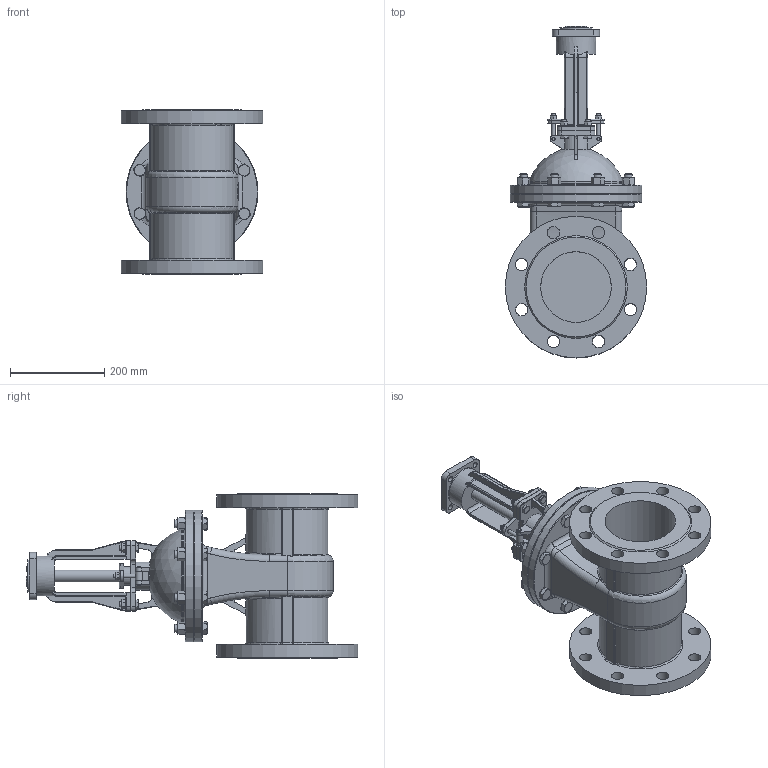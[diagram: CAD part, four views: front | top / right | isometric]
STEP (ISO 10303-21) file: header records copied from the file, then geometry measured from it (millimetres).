
FILE_DESCRIPTION(('STEP AP242'), '1');
FILE_NAME('GVWR2121M-2W-F-ÎÑÒ Çàäâèæêà êëèíîâàÿ ñ âûäâèæíûì øòîêîì Äó150 Ðó25', '2026-05-31T15:29:53', ('R2D2'), (''), 'C3D Converter', 'C3D Toolkit', '');
FILE_SCHEMA(('AP242_MANAGED_MODEL_BASED_3D_ENGINEERING_MIM_LF { 1 0 10303 442 1 1 4 }'));
Length unit declared in the file: millimetre
Products named in the file (1): GVWR2121M-2W-F-ОСТ
Bounding box: 300 x 704 x 350 mm (x, y, z)
Volume: 13739460.8 mm3; surface area: 1042863.9 mm2
Topology: 1 solids, 1 shells, 1284 faces, 3159 edges, 1943 vertices
Faces by surface type: plane 535, cone 260, cylinder 228, extrusion 108, bspline 77, torus 67, sphere 5, revolution 4
Full cylindrical faces by diameter (mm): 7 x4, 8 x4, 10 x8, 12 x4, 15 x2, 16 x20, 24 x4, 25 x2, 26 x16, 30 x1, 32 x1, 40 x1, 50 x1, 52 x1, 70 x1, 84.405 x1, 150 x2, 200 x2, 280 x2, 300 x2
Entity records: 71648 total; most frequent: CARTESIAN_POINT 32901, ORIENTED_EDGE 6092, DIRECTION 5232, EDGE_CURVE 3046, AXIS2_PLACEMENT_3D 1987, VERTEX_POINT 1941, EDGE_LOOP 1541, FACE_BOUND 1391
